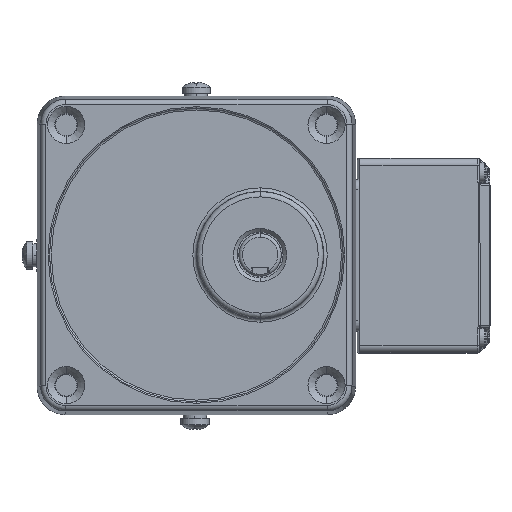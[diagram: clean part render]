
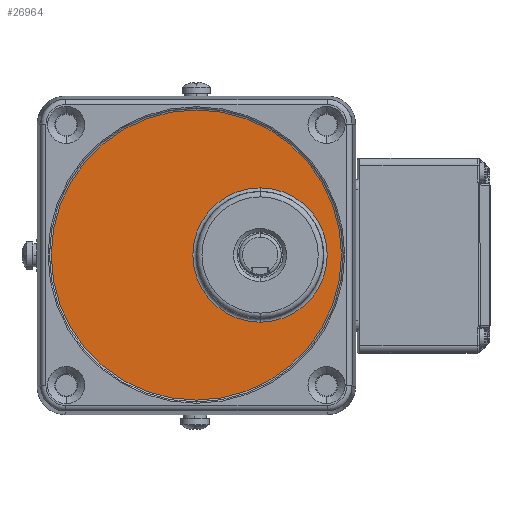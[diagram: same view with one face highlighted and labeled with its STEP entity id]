
A CAD part, top view. The second image highlights one B-rep face of the part: STEP entity #26964.
In plain terms, the highlighted planar face has unit normal (0, 0, 1) as drawn and (1, 0, 0) by its records, which use the part's own axes.
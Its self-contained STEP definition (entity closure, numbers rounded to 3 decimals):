
#3063 = CARTESIAN_POINT ( 'NONE',  ( 2697.792, -775.157, 18. ) ) ;
#3991 = ORIENTED_EDGE ( 'NONE', *, *, #57508, .F. ) ;
#6725 = DIRECTION ( 'NONE',  ( -1., 0., 0. ) ) ;
#6774 = VERTEX_POINT ( 'NONE', #47758 ) ;
#9145 = AXIS2_PLACEMENT_3D ( 'NONE', #3063, #25740, #48415 ) ;
#10083 = FACE_OUTER_BOUND ( 'NONE', #35606, .T. ) ;
#12145 = DIRECTION ( 'NONE',  ( 0., -1., 0. ) ) ;
#14246 = AXIS2_PLACEMENT_3D ( 'NONE', #72566, #21566, #44250 ) ;
#14821 = CARTESIAN_POINT ( 'NONE',  ( 2697.792, -816.149, 0. ) ) ;
#15574 = CARTESIAN_POINT ( 'NONE',  ( 2697.792, -775.157, 18. ) ) ;
#16731 = VERTEX_POINT ( 'NONE', #25902 ) ;
#19806 = ORIENTED_EDGE ( 'NONE', *, *, #34385, .F. ) ;
#19977 = EDGE_LOOP ( 'NONE', ( #34544, #3991 ) ) ;
#21566 = DIRECTION ( 'NONE',  ( 1., 0., 0. ) ) ;
#25501 = AXIS2_PLACEMENT_3D ( 'NONE', #40402, #63114, #12145 ) ;
#25740 = DIRECTION ( 'NONE',  ( 1., 0., 0. ) ) ;
#25902 = CARTESIAN_POINT ( 'NONE',  ( 2697.792, -794.14, 18. ) ) ;
#26964 = ADVANCED_FACE ( 'NONE', ( #10083, #27199 ), #49887, .T. ) ;
#27199 = FACE_BOUND ( 'NONE', #19977, .T. ) ;
#29383 = DIRECTION ( 'NONE',  ( 0., 1., 0. ) ) ;
#32452 = CIRCLE ( 'NONE', #41941, 40.991 ) ;
#34385 = EDGE_CURVE ( 'NONE', #39281, #6774, #57586, .T. ) ;
#34544 = ORIENTED_EDGE ( 'NONE', *, *, #47351, .F. ) ;
#35606 = EDGE_LOOP ( 'NONE', ( #19806, #44727 ) ) ;
#38231 = DIRECTION ( 'NONE',  ( 1., 0., 0. ) ) ;
#39281 = VERTEX_POINT ( 'NONE', #14821 ) ;
#39735 = AXIS2_PLACEMENT_3D ( 'NONE', #15574, #38231, #60962 ) ;
#40402 = CARTESIAN_POINT ( 'NONE',  ( 2697.792, -775.157, 0. ) ) ;
#41201 = CIRCLE ( 'NONE', #9145, 18.983 ) ;
#41853 = CARTESIAN_POINT ( 'NONE',  ( 2697.792, -756.175, 18. ) ) ;
#41941 = AXIS2_PLACEMENT_3D ( 'NONE', #57653, #6725, #29383 ) ;
#43352 = VERTEX_POINT ( 'NONE', #41853 ) ;
#44250 = DIRECTION ( 'NONE',  ( 0., 1., 0. ) ) ;
#44727 = ORIENTED_EDGE ( 'NONE', *, *, #44834, .F. ) ;
#44834 = EDGE_CURVE ( 'NONE', #6774, #39281, #32452, .T. ) ;
#47351 = EDGE_CURVE ( 'NONE', #16731, #43352, #71815, .T. ) ;
#47758 = CARTESIAN_POINT ( 'NONE',  ( 2697.792, -734.166, 0. ) ) ;
#48415 = DIRECTION ( 'NONE',  ( 0., 1., 0. ) ) ;
#49887 = PLANE ( 'NONE',  #14246 ) ;
#57508 = EDGE_CURVE ( 'NONE', #43352, #16731, #41201, .T. ) ;
#57586 = CIRCLE ( 'NONE', #25501, 40.991 ) ;
#57653 = CARTESIAN_POINT ( 'NONE',  ( 2697.792, -775.157, 0. ) ) ;
#60962 = DIRECTION ( 'NONE',  ( 0., -1., 0. ) ) ;
#63114 = DIRECTION ( 'NONE',  ( -1., 0., 0. ) ) ;
#71815 = CIRCLE ( 'NONE', #39735, 18.983 ) ;
#72566 = CARTESIAN_POINT ( 'NONE',  ( 2697.792, -775.157, 0. ) ) ;
